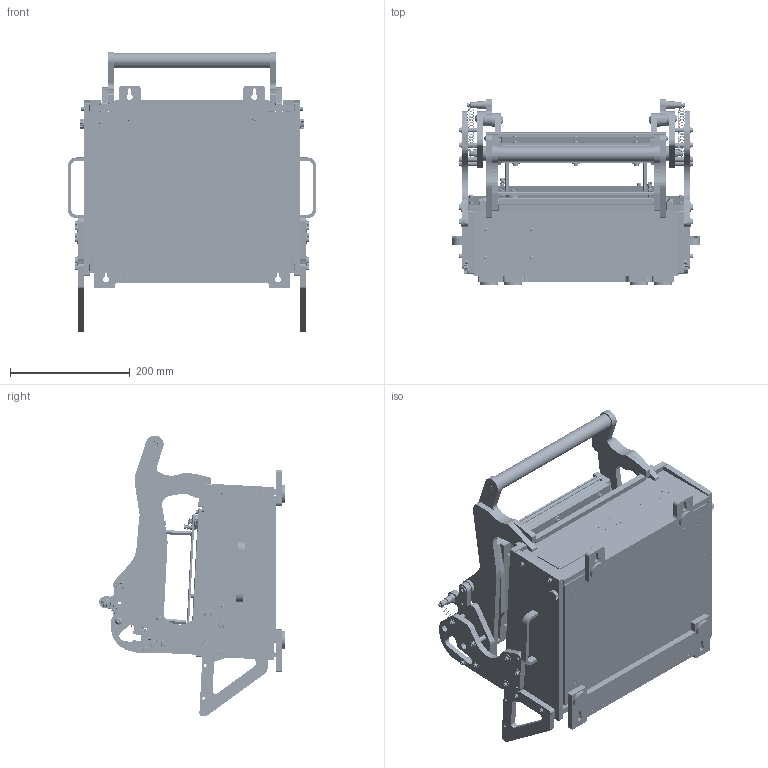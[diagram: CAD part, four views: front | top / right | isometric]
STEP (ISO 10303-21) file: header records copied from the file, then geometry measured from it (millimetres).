
FILE_DESCRIPTION (( 'STEP AP214' ), '1' );
FILE_NAME ('ARF-QLe-D-NSM2 - fermé.STEP', '2026-09-28T09:30:55', ( '' ), ( '' ), 'SwSTEP 2.0', 'SolidWorks 2015', '' );
FILE_SCHEMA (( 'AUTOMOTIVE_DESIGN' ));
Length unit declared in the file: millimetre
Products named in the file (104): 8005_035; 8005_255; ehff_4x45; 8005_243; 8005_055 Part inf STEP _Fermer; chc_04x16; tbhc_5x20; 8005_028; Compas; 8005_126; chc_04x14; Poignée_low_cost; RM_4; chc_03x20; 8005_199; Insert M4 profilé 5; 8005_198 (patin en mousse); chc_03x30; 8005_240; el_d4x20; 8005_137; 8005_427 STEP; Compas-support2; 8005_066; Compas-support1; 8005_400; d11960; 8005_119; shs 04x20; chc_04x10; V-15-1CQ; el2152pana; RIVET 3 LONG; RM_3; 8005_136; 8005_409; 038040159905; F Torx 05x16; chc_04x12; 8005_425 STEP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
Assembly tree (293 placements, depth 6):
  ARF-QLe-D-NSM2 - fermé
    8005_055 Part inf STEP _Fermer
      8005_198_Equere fermer
        8005_307
        chc_04x12  x4
        8005_205  x2
        chc_03x20  x4
        chc_03x05  x2
        Compas
          Compas-support1
          bras de compas  x2
          rivet compas  x3
          Compas-support2
        8005_240
        8005_243
        8005_198 (patin en mousse)  x4
        demi_charniere  x2
        F Torx 05x08  x4
      8005_086 STEP
        8005_136
          8005_136
          M04 Hu  x4
          F Torx 05x08  x4
          demi_charniere  x2
        8005_185_Logo ARF
          M04 Hu  x4
          8005_185
          8131_110 (PlaqueID)
          RIVET 3 LONG  x4
        8005_088
          8005_255
          M04 Hu  x2
          chc_03x08  x2
          chc_04x16  x2
          Poignée_low_cost
          8005_028
            chc_04x16
            038040159905
          chc_04x10  x2
          gd4x14  x2
        8005_119
          8005_119
          M04 Hu  x2
          chc_04x16  x2
          8005_028
            chc_04x16
            038040159905
          Poignée_low_cost
          chc_04x10  x2
          gd4x14  x2
        8005_197
          8005_197
          8005_128
          8005_268
          chc_04x12  x4
          chc_04x16  x4
          8331040008  x4
          8005_039
            8005_409
            8005_410
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Bounding box: 413.8 x 309.97 x 468.51 mm (x, y, z)
Volume: 6239969.6 mm3; surface area: 1987824.5 mm2
Topology: 279 solids, 279 shells, 7872 faces, 20067 edges, 13056 vertices
Faces by surface type: plane 3751, cylinder 3133, cone 584, torus 308, sphere 56, bspline 40
Entity records: 144360 total; most frequent: CARTESIAN_POINT 37542, DIRECTION 21633, ORIENTED_EDGE 20332, EDGE_CURVE 10166, AXIS2_PLACEMENT_3D 8120, VERTEX_POINT 6692, LINE 5393, VECTOR 5393
